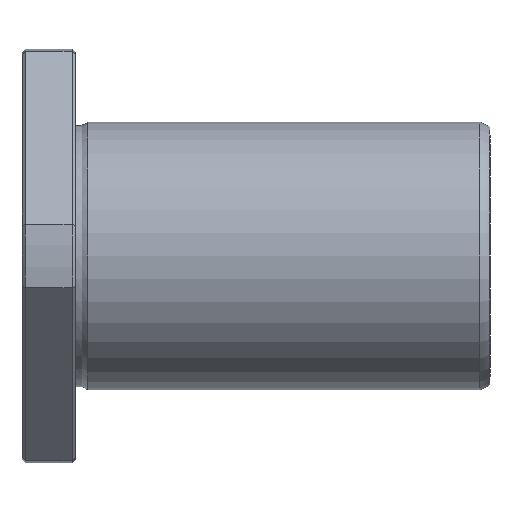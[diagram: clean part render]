
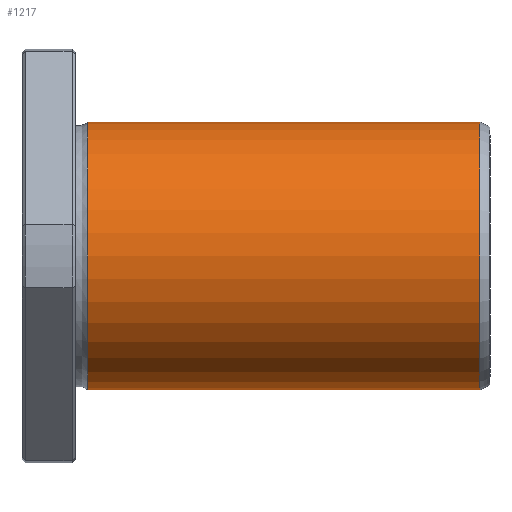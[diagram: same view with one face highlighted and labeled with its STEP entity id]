
A CAD part, front view. The second image highlights one B-rep face of the part: STEP entity #1217.
In plain terms, the highlighted cylindrical face has radius 20 mm (diameter 40 mm), a full revolution.
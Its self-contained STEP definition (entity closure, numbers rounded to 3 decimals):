
#1183=CARTESIAN_POINT('',(68.502,0.0,20.));
#1184=VERTEX_POINT('',#1183);
#1185=CARTESIAN_POINT('',(68.502,0.0,0.0));
#1186=DIRECTION('',(-1.0,0.0,0.0));
#1187=DIRECTION('',(0.0,0.0,1.0));
#1188=AXIS2_PLACEMENT_3D('',#1185,#1186,#1187);
#1189=CIRCLE('',#1188,20.);
#1190=EDGE_CURVE('',#1184,#1184,#1189,.T.);
#1198=CARTESIAN_POINT('',(39.162,0.0,0.0));
#1199=DIRECTION('',(-1.0,0.0,0.0));
#1200=DIRECTION('',(0.0,0.0,1.0));
#1201=AXIS2_PLACEMENT_3D('',#1198,#1199,#1200);
#1202=CYLINDRICAL_SURFACE('',#1201,20.);
#1203=CARTESIAN_POINT('',(9.823,0.0,20.0));
#1204=VERTEX_POINT('',#1203);
#1205=CARTESIAN_POINT('',(9.823,0.0,0.0));
#1206=DIRECTION('',(-1.0,0.0,0.0));
#1207=DIRECTION('',(0.0,0.0,1.0));
#1208=AXIS2_PLACEMENT_3D('',#1205,#1206,#1207);
#1209=CIRCLE('',#1208,20.0);
#1210=EDGE_CURVE('',#1204,#1204,#1209,.T.);
#1211=ORIENTED_EDGE('',*,*,#1210,.F.);
#1212=EDGE_LOOP('',(#1211));
#1213=FACE_OUTER_BOUND('',#1212,.T.);
#1214=ORIENTED_EDGE('',*,*,#1190,.T.);
#1215=EDGE_LOOP('',(#1214));
#1216=FACE_BOUND('',#1215,.T.);
#1217=ADVANCED_FACE('',(#1213,#1216),#1202,.T.);
